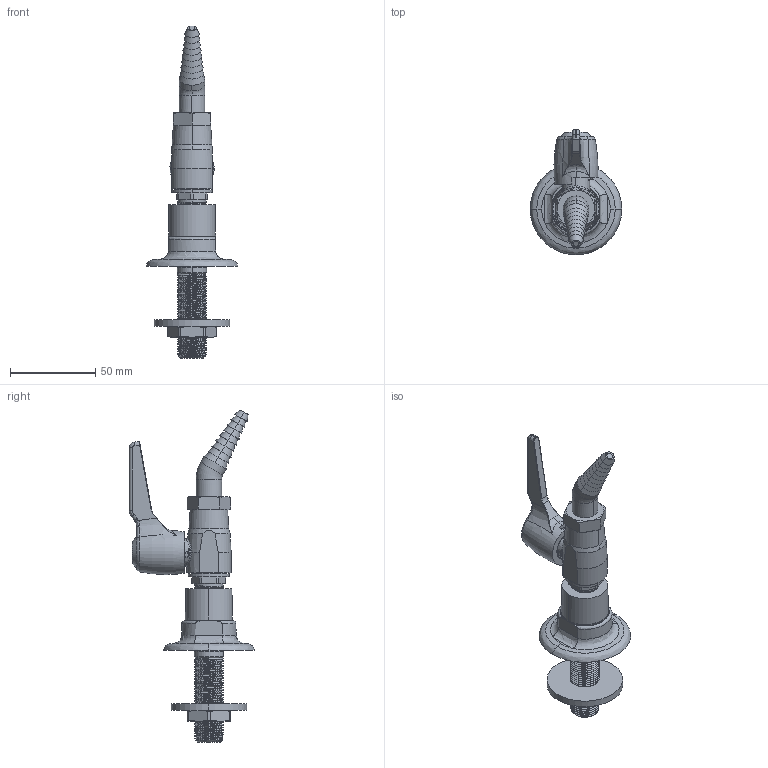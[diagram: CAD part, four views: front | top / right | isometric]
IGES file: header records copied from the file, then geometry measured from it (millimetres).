
Start section:  PTC IGES file: LGB1-21H-55.igs
Global section: file name: LGB1-21H-55.igs; native system: Creo Parametric by PTC Inc.; preprocessor: 2014500; author: usch_engrender; organization: Unknown; date: 20151201.103116; units: inch
Bounding box: 53.85 x 73.67 x 195 mm (x, y, z)
Volume: 85947.1 mm3; surface area: 32150 mm2
Topology: 2 solids, 2 shells, 491 faces, 1214 edges, 760 vertices
Faces by surface type: revolution 273, bspline 186, extrusion 32
